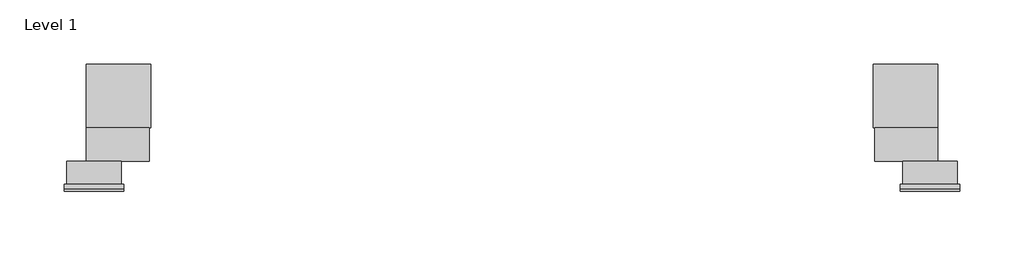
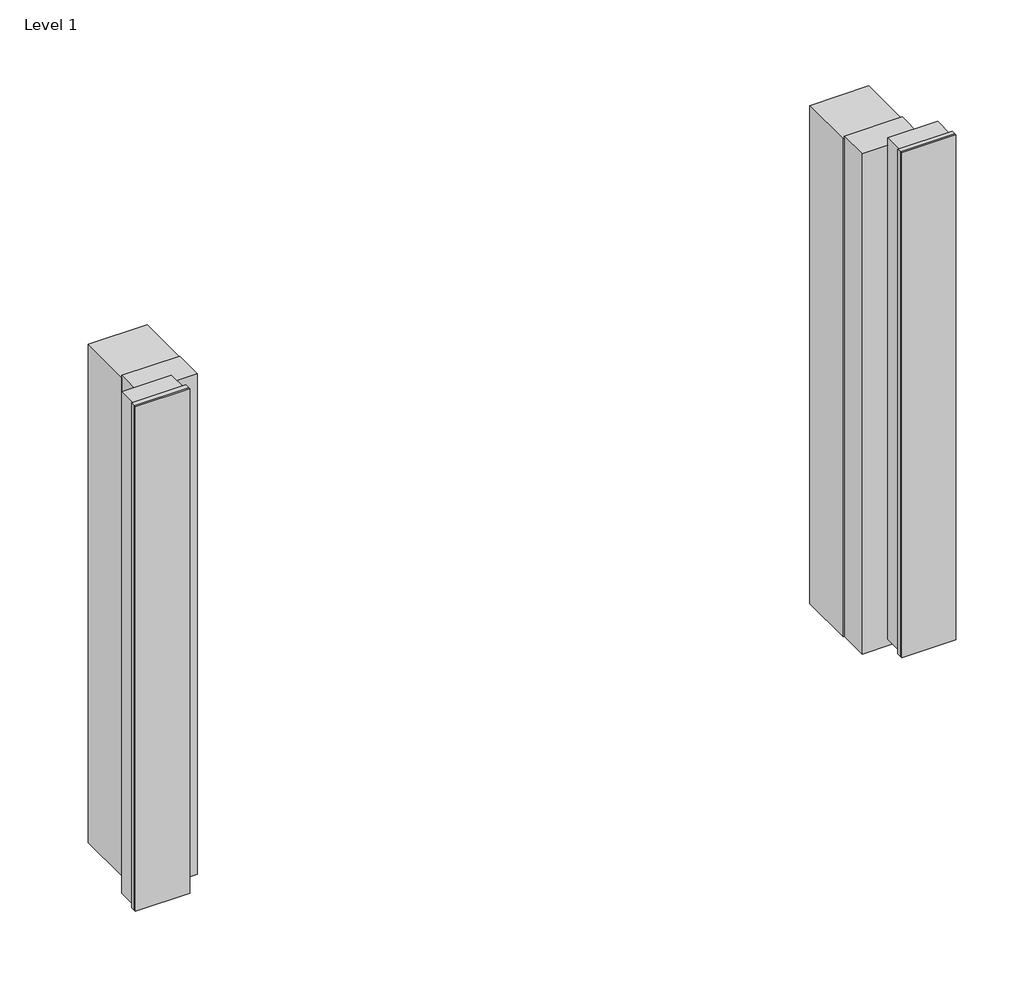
# One storey: 1 proxy.
"""IFC4 building model written with IfcOpenShell, lengths in millimetres."""

from ifc_helpers import new_model, si_unit, origin, place, context, project, spatial, transform, mapped, element, save
from components import specialty_equipment_1f1883fc

model = new_model("IFC4")

# Units and contexts
model_context = context("Model", 3, world=origin())
ifc_project = project(units=[si_unit("LENGTHUNIT", "METRE", prefix="MILLI")], contexts=[model_context])

# Site, building, storey
site = spatial("IfcSite", under=ifc_project)
building = spatial("IfcBuilding", under=site)
storey = spatial("IfcBuildingStorey", under=building, Name="Level 1", Elevation=0.0)

# Proxy
placement = place(None, origin())
specialty_equipment_shape = specialty_equipment_1f1883fc(model_context)
element("IfcBuildingElementProxy", 1, Name="11515830_USA_EBA7747_EDST-CLST : 29992969_USA_11515830_EBA7747_EDST-CLST", ObjectType="11515830_USA_EBA7747_EDST-CLST : 29992969_USA_11515830_EBA7747_EDST-CLST", at=placement, inside=storey, context=model_context, shape_type="MappedRepresentation", body=[
    mapped(specialty_equipment_shape, transform((0.0, 0.0, 0.0), x_axis=(1.0, 0.0, 0.0), y_axis=(0.0, 1.0, 0.0), z_axis=(0.0, 0.0, 1.0))),
])

save(model, "model.ifc")
